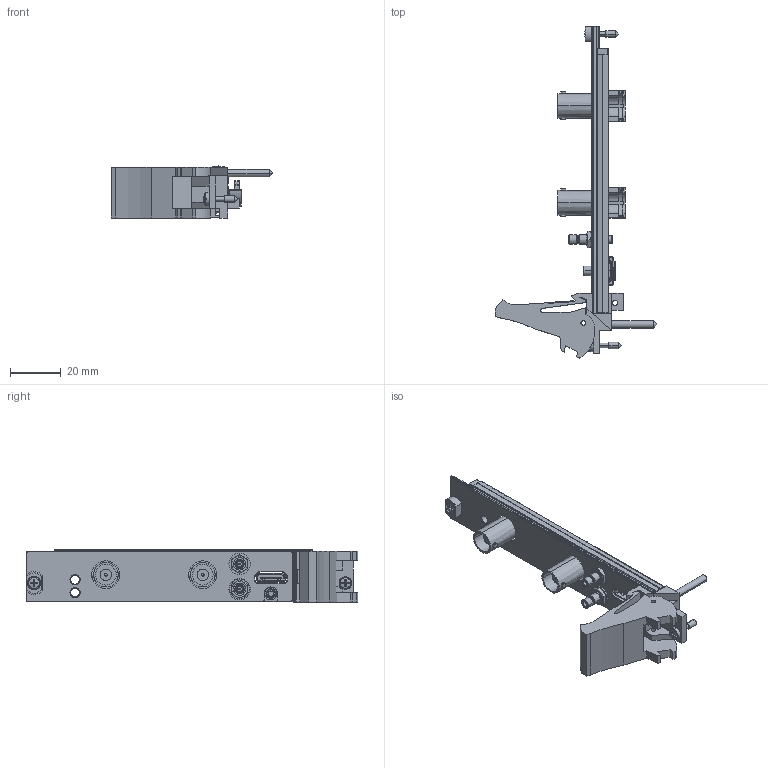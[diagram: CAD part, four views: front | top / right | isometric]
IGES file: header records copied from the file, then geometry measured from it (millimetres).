
Start section:  PTC IGES file: cu_pxie-5164.igs
Global section: file name: cu_pxie-5164.igs; native system: Creo Parametric by PTC Inc.; preprocessor: 2015380; author: jjorden; organization: Unknown; date: 20170502.211456; units: inch
Bounding box: 63.53 x 130.52 x 20.46 mm (x, y, z)
Surface area: 20208.1 mm2 (no closed solid volume)
Topology: 0 solids, 0 shells, 2066 faces, 11464 edges, 11458 vertices
Faces by surface type: bspline 1382, revolution 682, extrusion 2
